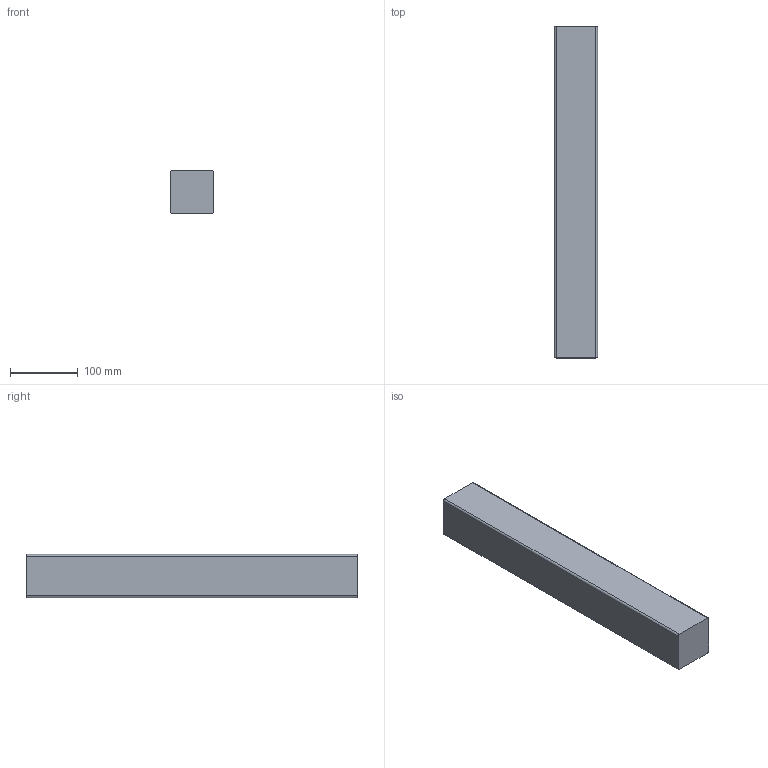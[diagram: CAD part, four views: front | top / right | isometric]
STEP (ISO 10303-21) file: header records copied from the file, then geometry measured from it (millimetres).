
FILE_DESCRIPTION((''),'2;1');
FILE_NAME('1029W7901-A-19-2_AF0','2020-01-08T10:31:33',('mbes'),(''),'CREO PARAMETRIC BY PTC INC, 2018400','CREO PARAMETRIC BY PTC INC, 2018400','');
FILE_SCHEMA(('AUTOMOTIVE_DESIGN { 1 0 10303 214 1 1 1 1 }'));
Length unit declared in the file: millimetre
Products named in the file (1): 1029W7901-A-19-2_AF0
Bounding box: 63.6 x 490 x 63.6 mm (x, y, z)
Volume: 1973485.9 mm3; surface area: 130776.2 mm2
Topology: 1 solids, 1 shells, 21 faces, 54 edges, 36 vertices
Faces by surface type: plane 12, cylinder 9
Entity records: 764 total; most frequent: DIRECTION 116, CARTESIAN_POINT 114, ORIENTED_EDGE 108, COLOUR_RGB 62, EDGE_CURVE 54, AXIS2_PLACEMENT_3D 40, VECTOR 36, LINE 36
